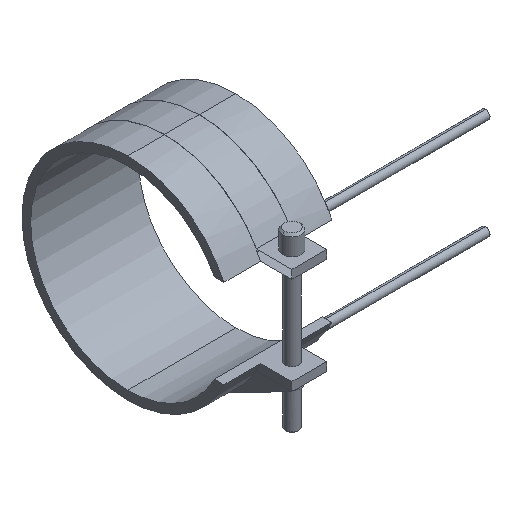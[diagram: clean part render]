
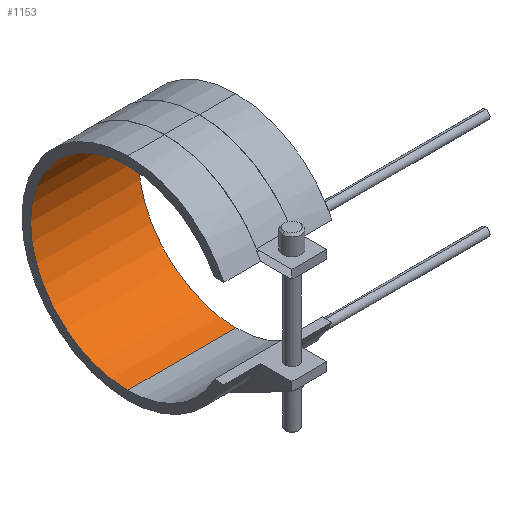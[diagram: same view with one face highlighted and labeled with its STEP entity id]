
A CAD part, isometric view. The second image highlights one B-rep face of the part: STEP entity #1153.
In plain terms, the highlighted cylindrical face has radius 45 mm (diameter 90 mm), a partial arc.
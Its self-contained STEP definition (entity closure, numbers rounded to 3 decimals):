
#834=CARTESIAN_POINT('Vertex',(-25.,0.,-45.)) ;
#841=CARTESIAN_POINT('Vertex',(25.,0.,-45.)) ;
#844=CARTESIAN_POINT('Line Origine',(25.,0.,-45.)) ;
#862=CARTESIAN_POINT('Axis2P3D Location',(-25.,0.,0.)) ;
#866=CARTESIAN_POINT('Vertex',(-25.,0.,45.)) ;
#923=CARTESIAN_POINT('Vertex',(25.,0.,45.)) ;
#933=CARTESIAN_POINT('Line Origine',(25.,0.,45.)) ;
#1024=CARTESIAN_POINT('Axis2P3D Location',(25.,0.,0.)) ;
#1142=CARTESIAN_POINT('Axis2P3D Location',(25.,0.,0.)) ;
#845=DIRECTION('Vector Direction',(1.,0.,0.)) ;
#863=DIRECTION('Axis2P3D Direction',(1.,0.,0.)) ;
#934=DIRECTION('Vector Direction',(1.,0.,0.)) ;
#1025=DIRECTION('Axis2P3D Direction',(1.,0.,0.)) ;
#1143=DIRECTION('Axis2P3D Direction',(1.,0.,-0.)) ;
#1144=DIRECTION('Axis2P3D XDirection',(0.,0.,-1.)) ;
#864=AXIS2_PLACEMENT_3D('Circle Axis2P3D',#862,#863,$) ;
#1026=AXIS2_PLACEMENT_3D('Circle Axis2P3D',#1024,#1025,$) ;
#1145=AXIS2_PLACEMENT_3D('Cylinder Axis2P3D',#1142,#1143,#1144) ;
#1148=ORIENTED_EDGE('',*,*,#1028,.T.) ;
#1149=ORIENTED_EDGE('',*,*,#937,.T.) ;
#1150=ORIENTED_EDGE('',*,*,#868,.F.) ;
#1151=ORIENTED_EDGE('',*,*,#848,.T.) ;
#846=VECTOR('Line Direction',#845,1.) ;
#935=VECTOR('Line Direction',#934,1.) ;
#1153=ADVANCED_FACE('14090050',(#1152),#1146,.F.) ;
#865=CIRCLE('generated circle',#864,45.) ;
#1027=CIRCLE('generated circle',#1026,45.) ;
#1146=CYLINDRICAL_SURFACE('generated cylinder',#1145,45.) ;
#848=EDGE_CURVE('',#835,#842,#847,.T.) ;
#868=EDGE_CURVE('',#835,#867,#865,.T.) ;
#937=EDGE_CURVE('',#924,#867,#936,.F.) ;
#1028=EDGE_CURVE('',#842,#924,#1027,.T.) ;
#1147=EDGE_LOOP('',(#1148,#1149,#1150,#1151)) ;
#1152=FACE_OUTER_BOUND('',#1147,.T.) ;
#847=LINE('Line',#844,#846) ;
#936=LINE('Line',#933,#935) ;
#835=VERTEX_POINT('',#834) ;
#842=VERTEX_POINT('',#841) ;
#867=VERTEX_POINT('',#866) ;
#924=VERTEX_POINT('',#923) ;
